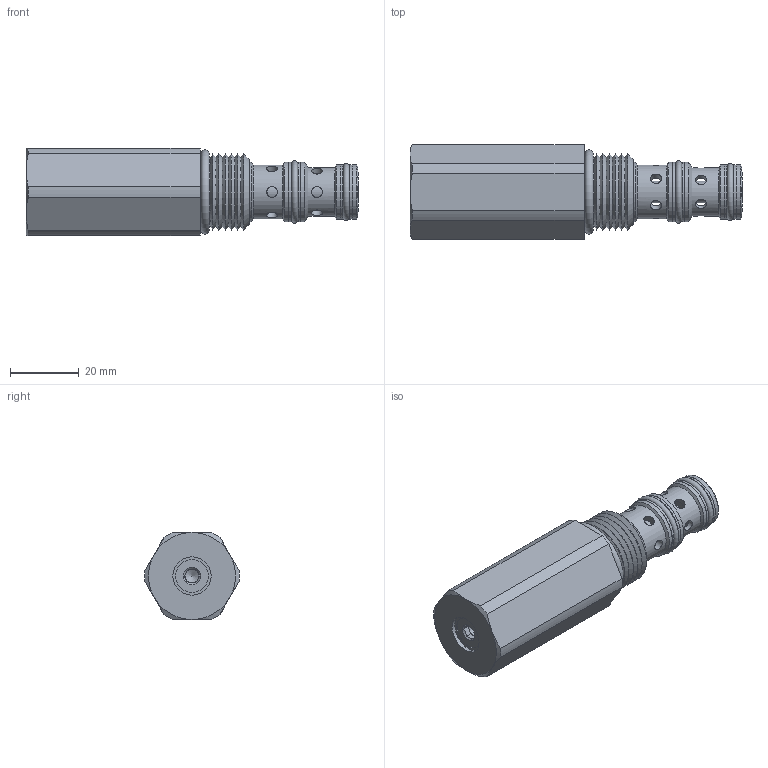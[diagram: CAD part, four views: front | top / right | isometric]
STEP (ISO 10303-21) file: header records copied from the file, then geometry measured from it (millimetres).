
FILE_DESCRIPTION((''),'2;1');
FILE_NAME('Q:\Delta CADD Insertion Codes\3D Solid models\Mechanical Valves\DWG\DFPCT0I.stp','2012-12-06T13:16:31',('Dan'),(''),'Autodesk Inventor 2012','Autodesk Inventor 2012','');
FILE_SCHEMA(('AUTOMOTIVE_DESIGN { 1 0 10303 214 1 1 1 1 }'));
Length unit declared in the file: inch
Products named in the file (9): Assembly7; Part82; Part84; Part86; Part88; Part90; Part92; Part94; Part96
Assembly tree (8 placements, depth 2):
  Assembly7
    Part82
    Part84
    Part86
    Part88
    Part90
    Part92
    Part94
    Part96
Bounding box: 96.84 x 27.67 x 25.4 mm (x, y, z)
Volume: 37870.8 mm3; surface area: 12455.5 mm2
Topology: 8 solids, 8 shells, 119 faces, 254 edges, 160 vertices
Faces by surface type: cylinder 49, plane 41, cone 26, torus 3
Full cylindrical faces by diameter (mm): 3.175 x12, 3.962 x1, 6.363 x1, 9.588 x1, 10.081 x3, 11.097 x5, 11.11 x1, 11.151 x1, 12.992 x1, 13.043 x2, 14.224 x1, 14.592 x1, 14.643 x2, 15.748 x1, 15.773 x2, 15.786 x2, 17.323 x1, 17.374 x2, 17.386 x2, 19.622 x1
Entity records: 3826 total; most frequent: CARTESIAN_POINT 1283, DIRECTION 504, ORIENTED_EDGE 346, AXIS2_PLACEMENT_3D 237, EDGE_LOOP 233, EDGE_CURVE 173, VERTEX_POINT 146, FACE_OUTER_BOUND 119
